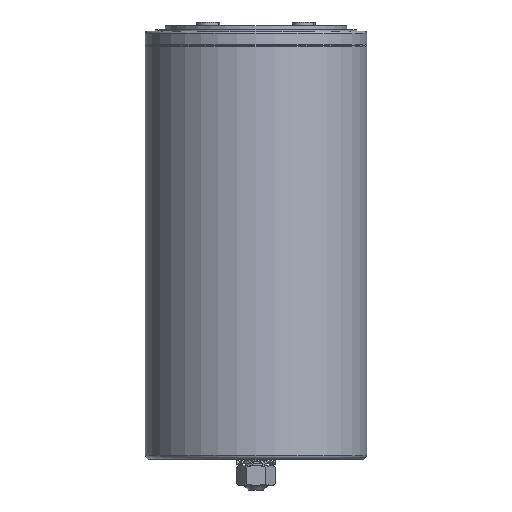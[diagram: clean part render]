
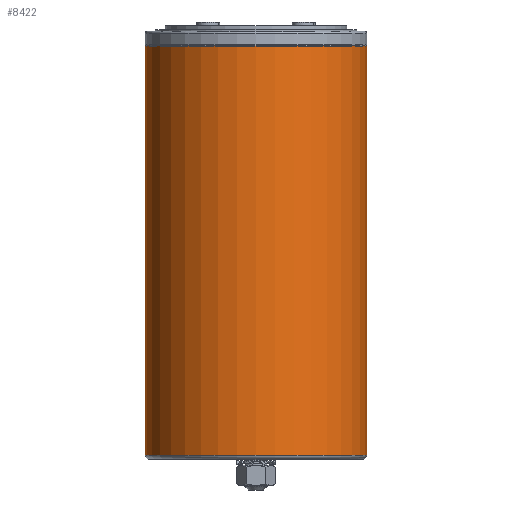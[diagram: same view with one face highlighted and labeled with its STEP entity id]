
A CAD part, front view. The second image highlights one B-rep face of the part: STEP entity #8422.
In plain terms, the highlighted cylindrical face has radius 58 mm (diameter 116 mm), a partial arc.
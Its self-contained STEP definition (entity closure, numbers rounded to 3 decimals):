
#58 = EDGE_CURVE ( 'NONE', #728, #511, #1539, .T. ) ;
#357 = FACE_OUTER_BOUND ( 'NONE', #1119, .T. ) ;
#511 = VERTEX_POINT ( 'NONE', #8781 ) ;
#684 = LINE ( 'NONE', #1579, #6549 ) ;
#694 = ORIENTED_EDGE ( 'NONE', *, *, #1358, .T. ) ;
#728 = VERTEX_POINT ( 'NONE', #2949 ) ;
#1003 = DIRECTION ( 'NONE',  ( -1., 0., 0. ) ) ;
#1042 = ORIENTED_EDGE ( 'NONE', *, *, #8354, .T. ) ;
#1095 = EDGE_CURVE ( 'NONE', #7531, #728, #684, .T. ) ;
#1119 = EDGE_LOOP ( 'NONE', ( #6476, #694, #1042, #6768 ) ) ;
#1358 = EDGE_CURVE ( 'NONE', #7531, #1950, #2794, .T. ) ;
#1372 = CARTESIAN_POINT ( 'NONE',  ( -15.5, 0., 151.967 ) ) ;
#1423 = DIRECTION ( 'NONE',  ( 0., 0., -1. ) ) ;
#1539 = CIRCLE ( 'NONE', #5454, 58. ) ;
#1579 = CARTESIAN_POINT ( 'NONE',  ( 42.5, 0., 151.967 ) ) ;
#1806 = DIRECTION ( 'NONE',  ( 0., 0., -1. ) ) ;
#1950 = VERTEX_POINT ( 'NONE', #5201 ) ;
#2794 = CIRCLE ( 'NONE', #5823, 58. ) ;
#2949 = CARTESIAN_POINT ( 'NONE',  ( 42.5, 0., -18.854 ) ) ;
#3013 = LINE ( 'NONE', #7505, #5465 ) ;
#3228 = DIRECTION ( 'NONE',  ( 0., 0., -1. ) ) ;
#3972 = CYLINDRICAL_SURFACE ( 'NONE', #8635, 58. ) ;
#5086 = DIRECTION ( 'NONE',  ( 0., 0., -1. ) ) ;
#5201 = CARTESIAN_POINT ( 'NONE',  ( -73.5, 0., 195.217 ) ) ;
#5229 = CARTESIAN_POINT ( 'NONE',  ( -15.5, 0., 195.217 ) ) ;
#5454 = AXIS2_PLACEMENT_3D ( 'NONE', #8542, #5086, #1003 ) ;
#5465 = VECTOR ( 'NONE', #6876, 1000. ) ;
#5823 = AXIS2_PLACEMENT_3D ( 'NONE', #5229, #1806, #5895 ) ;
#5895 = DIRECTION ( 'NONE',  ( -1., 0., 0. ) ) ;
#6476 = ORIENTED_EDGE ( 'NONE', *, *, #1095, .F. ) ;
#6549 = VECTOR ( 'NONE', #3228, 1000. ) ;
#6768 = ORIENTED_EDGE ( 'NONE', *, *, #58, .F. ) ;
#6819 = DIRECTION ( 'NONE',  ( -1., 0., 0. ) ) ;
#6876 = DIRECTION ( 'NONE',  ( 0., 0., -1. ) ) ;
#7505 = CARTESIAN_POINT ( 'NONE',  ( -73.5, 0., 151.967 ) ) ;
#7531 = VERTEX_POINT ( 'NONE', #8504 ) ;
#8354 = EDGE_CURVE ( 'NONE', #1950, #511, #3013, .T. ) ;
#8422 = ADVANCED_FACE ( 'NONE', ( #357 ), #3972, .T. ) ;
#8504 = CARTESIAN_POINT ( 'NONE',  ( 42.5, 0., 195.217 ) ) ;
#8542 = CARTESIAN_POINT ( 'NONE',  ( -15.5, 0., -18.854 ) ) ;
#8635 = AXIS2_PLACEMENT_3D ( 'NONE', #1372, #1423, #6819 ) ;
#8781 = CARTESIAN_POINT ( 'NONE',  ( -73.5, 0., -18.854 ) ) ;
